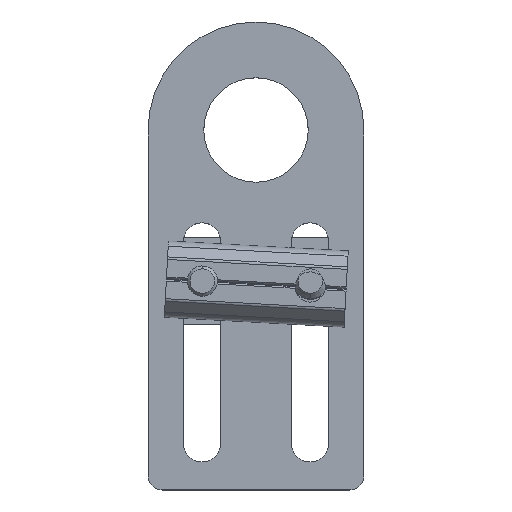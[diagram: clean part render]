
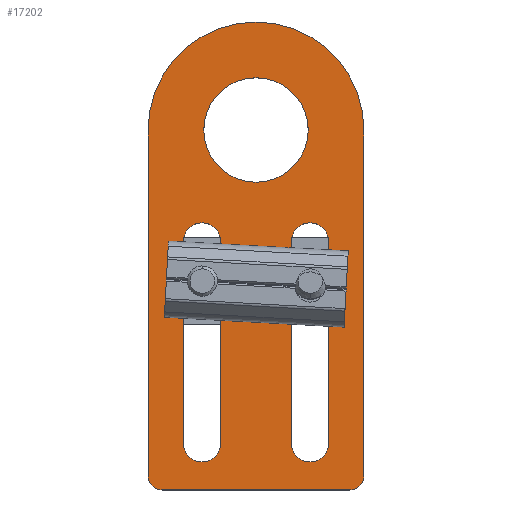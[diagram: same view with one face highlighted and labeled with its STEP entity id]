
A CAD part, top view. The second image highlights one B-rep face of the part: STEP entity #17202.
In plain terms, the highlighted planar face has unit normal (0, 0, 1).
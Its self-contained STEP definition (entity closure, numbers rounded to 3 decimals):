
#39 = DIRECTION ( 'NONE',  ( -1., 0., 0. ) ) ;
#217 = VERTEX_POINT ( 'NONE', #5504 ) ;
#623 = AXIS2_PLACEMENT_3D ( 'NONE', #7409, #17137, #24890 ) ;
#1059 = ORIENTED_EDGE ( 'NONE', *, *, #6017, .T. ) ;
#1179 = LINE ( 'NONE', #16541, #23559 ) ;
#1236 = AXIS2_PLACEMENT_3D ( 'NONE', #14613, #10666, #1241 ) ;
#1241 = DIRECTION ( 'NONE',  ( -1., 0., 0. ) ) ;
#1349 = CARTESIAN_POINT ( 'NONE',  ( -73.339, 17.298, 33.764 ) ) ;
#1718 = DIRECTION ( 'NONE',  ( 0., 0., 1. ) ) ;
#1800 = DIRECTION ( 'NONE',  ( 1., 0., 0. ) ) ;
#2004 = DIRECTION ( 'NONE',  ( 0., 0., 1. ) ) ;
#2435 = AXIS2_PLACEMENT_3D ( 'NONE', #7150, #20699, #9177 ) ;
#2468 = EDGE_LOOP ( 'NONE', ( #19835, #9955 ) ) ;
#2518 = CARTESIAN_POINT ( 'NONE',  ( -90.939, -10.702, 33.764 ) ) ;
#2578 = AXIS2_PLACEMENT_3D ( 'NONE', #23987, #21830, #12418 ) ;
#2592 = ORIENTED_EDGE ( 'NONE', *, *, #2977, .T. ) ;
#2619 = CARTESIAN_POINT ( 'NONE',  ( -80.839, 32.798, 33.764 ) ) ;
#2869 = ORIENTED_EDGE ( 'NONE', *, *, #6307, .T. ) ;
#2977 = EDGE_CURVE ( 'NONE', #20415, #3296, #10258, .T. ) ;
#3296 = VERTEX_POINT ( 'NONE', #8547 ) ;
#3500 = FACE_OUTER_BOUND ( 'NONE', #23427, .T. ) ;
#3592 = ORIENTED_EDGE ( 'NONE', *, *, #18542, .T. ) ;
#4455 = CARTESIAN_POINT ( 'NONE',  ( -70.739, 17.298, 33.764 ) ) ;
#4538 = VERTEX_POINT ( 'NONE', #8660 ) ;
#4636 = EDGE_CURVE ( 'NONE', #18842, #4538, #17327, .T. ) ;
#4895 = AXIS2_PLACEMENT_3D ( 'NONE', #1349, #6828, #8840 ) ;
#5504 = CARTESIAN_POINT ( 'NONE',  ( -95.839, -15.202, 33.764 ) ) ;
#5746 = EDGE_CURVE ( 'NONE', #23103, #5871, #1179, .T. ) ;
#5863 = EDGE_CURVE ( 'NONE', #217, #22989, #22651, .T. ) ;
#5871 = VERTEX_POINT ( 'NONE', #24736 ) ;
#6017 = EDGE_CURVE ( 'NONE', #19237, #15222, #23220, .T. ) ;
#6307 = EDGE_CURVE ( 'NONE', #3296, #23292, #19877, .T. ) ;
#6340 = CARTESIAN_POINT ( 'NONE',  ( -70.739, 15.493, 33.764 ) ) ;
#6541 = AXIS2_PLACEMENT_3D ( 'NONE', #13552, #1718, #1800 ) ;
#6700 = CARTESIAN_POINT ( 'NONE',  ( -75.939, 17.298, 33.764 ) ) ;
#6799 = LINE ( 'NONE', #23425, #20425 ) ;
#6828 = DIRECTION ( 'NONE',  ( 0., 0., -1. ) ) ;
#7005 = CARTESIAN_POINT ( 'NONE',  ( -88.339, 17.298, 33.764 ) ) ;
#7055 = DIRECTION ( 'NONE',  ( 0., 1., 0. ) ) ;
#7150 = CARTESIAN_POINT ( 'NONE',  ( -73.339, -10.702, 33.764 ) ) ;
#7252 = EDGE_CURVE ( 'NONE', #15222, #11429, #19031, .T. ) ;
#7409 = CARTESIAN_POINT ( 'NONE',  ( -93.839, -15.202, 33.764 ) ) ;
#7691 = VERTEX_POINT ( 'NONE', #15445 ) ;
#7697 = FACE_BOUND ( 'NONE', #13383, .T. ) ;
#8394 = DIRECTION ( 'NONE',  ( 0., 1., 0. ) ) ;
#8547 = CARTESIAN_POINT ( 'NONE',  ( -75.939, -10.702, 33.764 ) ) ;
#8660 = CARTESIAN_POINT ( 'NONE',  ( -90.939, 17.298, 33.764 ) ) ;
#8840 = DIRECTION ( 'NONE',  ( -1., 0., 0. ) ) ;
#9177 = DIRECTION ( 'NONE',  ( -1., 0., 0. ) ) ;
#9237 = CARTESIAN_POINT ( 'NONE',  ( -65.839, 32.798, 33.764 ) ) ;
#9955 = ORIENTED_EDGE ( 'NONE', *, *, #12556, .F. ) ;
#10032 = DIRECTION ( 'NONE',  ( 0., 1., 0. ) ) ;
#10258 = CIRCLE ( 'NONE', #2435, 2.6 ) ;
#10290 = DIRECTION ( 'NONE',  ( 0., -1., 0. ) ) ;
#10664 = CARTESIAN_POINT ( 'NONE',  ( -90.939, 15.493, 33.764 ) ) ;
#10666 = DIRECTION ( 'NONE',  ( 0., 0., 1. ) ) ;
#10677 = DIRECTION ( 'NONE',  ( 0., 0., 1. ) ) ;
#10844 = ORIENTED_EDGE ( 'NONE', *, *, #4636, .T. ) ;
#11429 = VERTEX_POINT ( 'NONE', #9237 ) ;
#11476 = EDGE_LOOP ( 'NONE', ( #13198, #2592, #2869, #14081 ) ) ;
#11927 = CIRCLE ( 'NONE', #1236, 15. ) ;
#11941 = ORIENTED_EDGE ( 'NONE', *, *, #7252, .T. ) ;
#12052 = VECTOR ( 'NONE', #10290, 1000. ) ;
#12106 = LINE ( 'NONE', #6340, #23886 ) ;
#12260 = CARTESIAN_POINT ( 'NONE',  ( -95.839, 15.493, 33.764 ) ) ;
#12418 = DIRECTION ( 'NONE',  ( -1., 0., 0. ) ) ;
#12556 = EDGE_CURVE ( 'NONE', #20182, #7691, #20337, .T. ) ;
#12999 = CARTESIAN_POINT ( 'NONE',  ( -73.589, 32.798, 33.764 ) ) ;
#13014 = EDGE_CURVE ( 'NONE', #5871, #18842, #23611, .T. ) ;
#13198 = ORIENTED_EDGE ( 'NONE', *, *, #15753, .T. ) ;
#13383 = EDGE_LOOP ( 'NONE', ( #10844, #21554, #21201, #16436 ) ) ;
#13552 = CARTESIAN_POINT ( 'NONE',  ( -95.839, -17.202, 33.764 ) ) ;
#13837 = VECTOR ( 'NONE', #8394, 1000. ) ;
#14017 = CARTESIAN_POINT ( 'NONE',  ( -70.739, -10.702, 33.764 ) ) ;
#14081 = ORIENTED_EDGE ( 'NONE', *, *, #16055, .T. ) ;
#14613 = CARTESIAN_POINT ( 'NONE',  ( -80.839, 32.798, 33.764 ) ) ;
#14688 = CARTESIAN_POINT ( 'NONE',  ( -95.839, 32.798, 33.764 ) ) ;
#14797 = DIRECTION ( 'NONE',  ( 0., -1., 0. ) ) ;
#14878 = DIRECTION ( 'NONE',  ( -1., 0., 0. ) ) ;
#15012 = AXIS2_PLACEMENT_3D ( 'NONE', #17300, #2004, #21115 ) ;
#15222 = VERTEX_POINT ( 'NONE', #17851 ) ;
#15426 = PLANE ( 'NONE',  #6541 ) ;
#15445 = CARTESIAN_POINT ( 'NONE',  ( -88.089, 32.798, 33.764 ) ) ;
#15753 = EDGE_CURVE ( 'NONE', #16893, #20415, #12106, .T. ) ;
#15965 = CARTESIAN_POINT ( 'NONE',  ( -85.739, 17.298, 33.764 ) ) ;
#16055 = EDGE_CURVE ( 'NONE', #23292, #16893, #23864, .T. ) ;
#16128 = CARTESIAN_POINT ( 'NONE',  ( -75.939, 15.493, 33.764 ) ) ;
#16376 = CIRCLE ( 'NONE', #23161, 7.25 ) ;
#16436 = ORIENTED_EDGE ( 'NONE', *, *, #13014, .T. ) ;
#16440 = FACE_BOUND ( 'NONE', #2468, .T. ) ;
#16541 = CARTESIAN_POINT ( 'NONE',  ( -85.739, 15.493, 33.764 ) ) ;
#16575 = VERTEX_POINT ( 'NONE', #14688 ) ;
#16893 = VERTEX_POINT ( 'NONE', #4455 ) ;
#17137 = DIRECTION ( 'NONE',  ( 0., 0., 1. ) ) ;
#17202 = ADVANCED_FACE ( 'NONE', ( #19507, #16440, #7697, #3500 ), #15426, .T. ) ;
#17300 = CARTESIAN_POINT ( 'NONE',  ( -67.839, -15.202, 33.764 ) ) ;
#17327 = LINE ( 'NONE', #10664, #21565 ) ;
#17459 = ORIENTED_EDGE ( 'NONE', *, *, #22243, .T. ) ;
#17532 = VECTOR ( 'NONE', #10032, 1000. ) ;
#17575 = AXIS2_PLACEMENT_3D ( 'NONE', #20700, #10677, #14878 ) ;
#17851 = CARTESIAN_POINT ( 'NONE',  ( -65.839, -15.202, 33.764 ) ) ;
#17964 = ORIENTED_EDGE ( 'NONE', *, *, #5863, .T. ) ;
#18145 = DIRECTION ( 'NONE',  ( -1., 0., 0. ) ) ;
#18542 = EDGE_CURVE ( 'NONE', #11429, #16575, #11927, .T. ) ;
#18842 = VERTEX_POINT ( 'NONE', #2518 ) ;
#18879 = CIRCLE ( 'NONE', #22613, 2.6 ) ;
#19031 = LINE ( 'NONE', #19703, #17532 ) ;
#19215 = DIRECTION ( 'NONE',  ( 0., 0., -1. ) ) ;
#19237 = VERTEX_POINT ( 'NONE', #23508 ) ;
#19349 = LINE ( 'NONE', #12260, #12052 ) ;
#19507 = FACE_BOUND ( 'NONE', #11476, .T. ) ;
#19703 = CARTESIAN_POINT ( 'NONE',  ( -65.839, 15.493, 33.764 ) ) ;
#19731 = DIRECTION ( 'NONE',  ( 1., 0., 0. ) ) ;
#19835 = ORIENTED_EDGE ( 'NONE', *, *, #24367, .F. ) ;
#19877 = LINE ( 'NONE', #16128, #13837 ) ;
#20182 = VERTEX_POINT ( 'NONE', #12999 ) ;
#20337 = CIRCLE ( 'NONE', #17575, 7.25 ) ;
#20415 = VERTEX_POINT ( 'NONE', #14017 ) ;
#20425 = VECTOR ( 'NONE', #19731, 1000. ) ;
#20699 = DIRECTION ( 'NONE',  ( 0., 0., -1. ) ) ;
#20700 = CARTESIAN_POINT ( 'NONE',  ( -80.839, 32.798, 33.764 ) ) ;
#21115 = DIRECTION ( 'NONE',  ( -1., 0., 0. ) ) ;
#21201 = ORIENTED_EDGE ( 'NONE', *, *, #5746, .T. ) ;
#21393 = ORIENTED_EDGE ( 'NONE', *, *, #23855, .T. ) ;
#21554 = ORIENTED_EDGE ( 'NONE', *, *, #22517, .T. ) ;
#21565 = VECTOR ( 'NONE', #7055, 1000. ) ;
#21830 = DIRECTION ( 'NONE',  ( 0., 0., -1. ) ) ;
#21954 = DIRECTION ( 'NONE',  ( 0., 0., 1. ) ) ;
#22243 = EDGE_CURVE ( 'NONE', #22989, #19237, #6799, .T. ) ;
#22517 = EDGE_CURVE ( 'NONE', #4538, #23103, #18879, .T. ) ;
#22613 = AXIS2_PLACEMENT_3D ( 'NONE', #7005, #19215, #39 ) ;
#22651 = CIRCLE ( 'NONE', #623, 2. ) ;
#22873 = CARTESIAN_POINT ( 'NONE',  ( -93.839, -17.202, 33.764 ) ) ;
#22989 = VERTEX_POINT ( 'NONE', #22873 ) ;
#23103 = VERTEX_POINT ( 'NONE', #15965 ) ;
#23161 = AXIS2_PLACEMENT_3D ( 'NONE', #2619, #21954, #18145 ) ;
#23220 = CIRCLE ( 'NONE', #15012, 2. ) ;
#23292 = VERTEX_POINT ( 'NONE', #6700 ) ;
#23425 = CARTESIAN_POINT ( 'NONE',  ( -80.839, -17.202, 33.764 ) ) ;
#23427 = EDGE_LOOP ( 'NONE', ( #17964, #17459, #1059, #11941, #3592, #21393 ) ) ;
#23503 = DIRECTION ( 'NONE',  ( 0., -1., 0. ) ) ;
#23508 = CARTESIAN_POINT ( 'NONE',  ( -67.839, -17.202, 33.764 ) ) ;
#23559 = VECTOR ( 'NONE', #14797, 1000. ) ;
#23611 = CIRCLE ( 'NONE', #2578, 2.6 ) ;
#23855 = EDGE_CURVE ( 'NONE', #16575, #217, #19349, .T. ) ;
#23864 = CIRCLE ( 'NONE', #4895, 2.6 ) ;
#23886 = VECTOR ( 'NONE', #23503, 1000. ) ;
#23987 = CARTESIAN_POINT ( 'NONE',  ( -88.339, -10.702, 33.764 ) ) ;
#24367 = EDGE_CURVE ( 'NONE', #7691, #20182, #16376, .T. ) ;
#24736 = CARTESIAN_POINT ( 'NONE',  ( -85.739, -10.702, 33.764 ) ) ;
#24890 = DIRECTION ( 'NONE',  ( -1., 0., 0. ) ) ;
